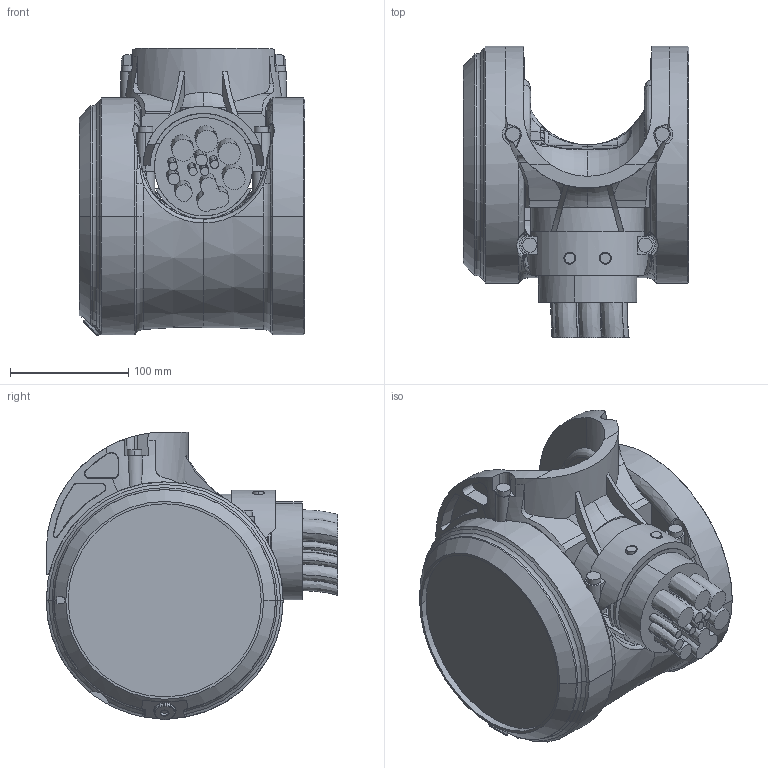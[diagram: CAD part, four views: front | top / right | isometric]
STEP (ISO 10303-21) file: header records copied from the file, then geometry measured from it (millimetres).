
FILE_DESCRIPTION (( 'STEP AP214' ), '1' );
FILE_NAME ('IRB6720-LID_150kg-310_OC_00_LINK06_CABLE.step', '2026-05-26T07:56:08', ( '' ), ( '' ), 'SwSTEP 2.0', 'SolidWorks 2024', '' );
FILE_SCHEMA (( 'AUTOMOTIVE_DESIGN' ));
Length unit declared in the file: millimetre
Products named in the file (1): IRB6720-LID_150kg-310_OC_00_LINK06_CABLE
Bounding box: 190.5 x 246.09 x 242.9 mm (x, y, z)
Volume: 3702812.8 mm3; surface area: 348600.3 mm2
Topology: 1 solids, 1 shells, 753 faces, 1955 edges, 1199 vertices
Faces by surface type: bspline 212, cylinder 174, plane 159, cone 123, torus 80, sphere 5
Entity records: 42814 total; most frequent: CARTESIAN_POINT 17978, ORIENTED_EDGE 3862, DIRECTION 2997, EDGE_CURVE 1931, AXIS2_PLACEMENT_3D 1242, VERTEX_POINT 1199, EDGE_LOOP 798, UNCERTAINTY_MEASURE_WITH_UNIT 755
